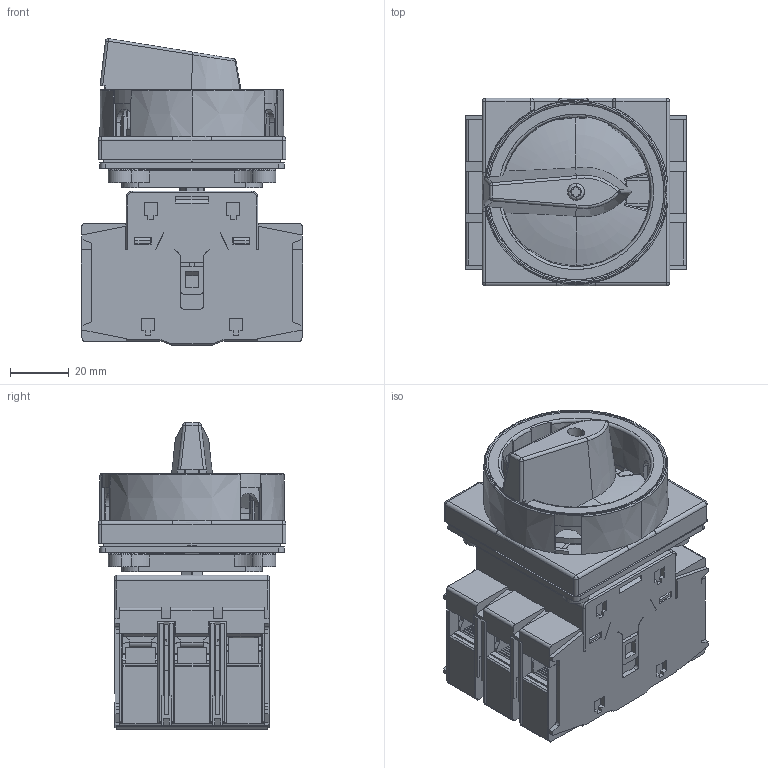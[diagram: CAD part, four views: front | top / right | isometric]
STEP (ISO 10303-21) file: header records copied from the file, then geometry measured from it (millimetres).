
FILE_DESCRIPTION (( 'STEP AP214' ), '1' );
FILE_NAME ('JHAS80-PM80R-RY.STEP', '2021-03-17T05:53:38', ( '' ), ( '' ), 'SwSTEP 2.0', 'SolidWorks 2016', '' );
FILE_SCHEMA (( 'AUTOMOTIVE_DESIGN' ));
Length unit declared in the file: millimetre
Products named in the file (1): JHAS80-PM80R-RY
Bounding box: 75.5 x 64 x 104.51 mm (x, y, z)
Volume: 236202.6 mm3; surface area: 109550.8 mm2
Topology: 3 solids, 30 shells, 4285 faces, 12554 edges, 8220 vertices
Faces by surface type: plane 2814, cylinder 1077, cone 185, torus 145, bspline 51, sphere 13
Entity records: 192780 total; most frequent: CARTESIAN_POINT 31583, ORIENTED_EDGE 25082, DIRECTION 22527, EDGE_CURVE 12541, LINE 9023, VECTOR 9023, VERTEX_POINT 8220, AXIS2_PLACEMENT_3D 6752
